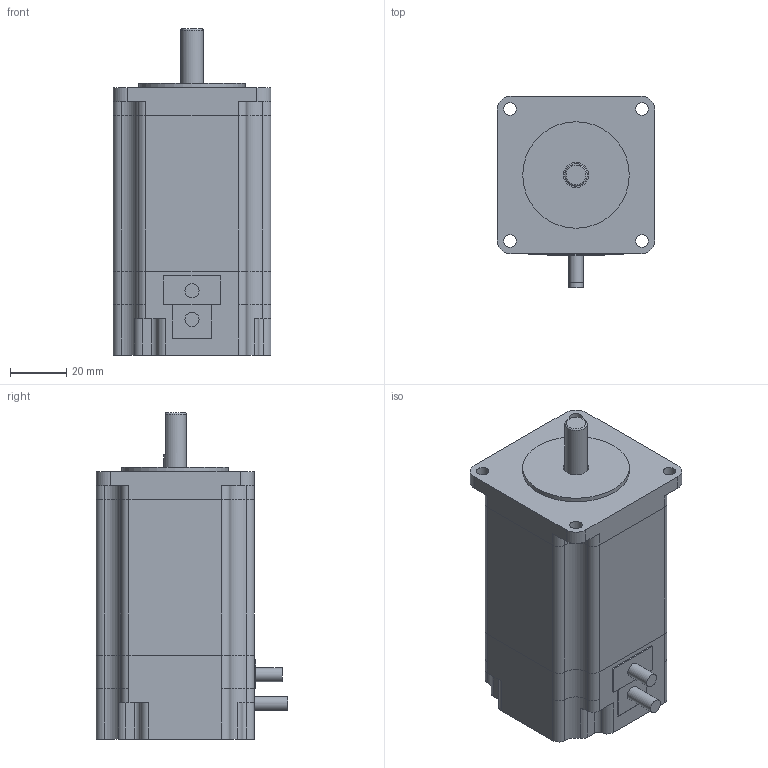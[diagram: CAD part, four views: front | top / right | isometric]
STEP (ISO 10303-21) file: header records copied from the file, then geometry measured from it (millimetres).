
FILE_DESCRIPTION(/* description */ (''),/* implementation_level */ '2;1');
FILE_NAME(/* name */ 'STP-59D5-Y17-01761.stp',/* time_stamp */ '2018-09-03T10:47:43+08:00',/* author */ (''),/* organization */ (''),/* preprocessor_version */ 'ST-DEVELOPER v11',/* originating_system */ 'SIEMENS UGS NX 6.0',/* authorisation */ '');
FILE_SCHEMA (('CONFIG_CONTROL_DESIGN'));
Length unit declared in the file: millimetre
Products named in the file (1): STP-59D5-Y17-01761
Bounding box: 56.4 x 68.4 x 116.5 mm (x, y, z)
Volume: 279063.2 mm3; surface area: 38761.4 mm2
Topology: 3 solids, 3 shells, 124 faces, 337 edges, 225 vertices
Faces by surface type: cylinder 73, plane 50, torus 1
Full cylindrical faces by diameter (mm): 4.5 x4, 5 x2, 8 x1, 9 x1, 38 x1
Entity records: 4046 total; most frequent: DIRECTION 729, CARTESIAN_POINT 711, ORIENTED_EDGE 650, EDGE_CURVE 325, AXIS2_PLACEMENT_3D 281, VERTEX_POINT 222, LINE 167, VECTOR 167
